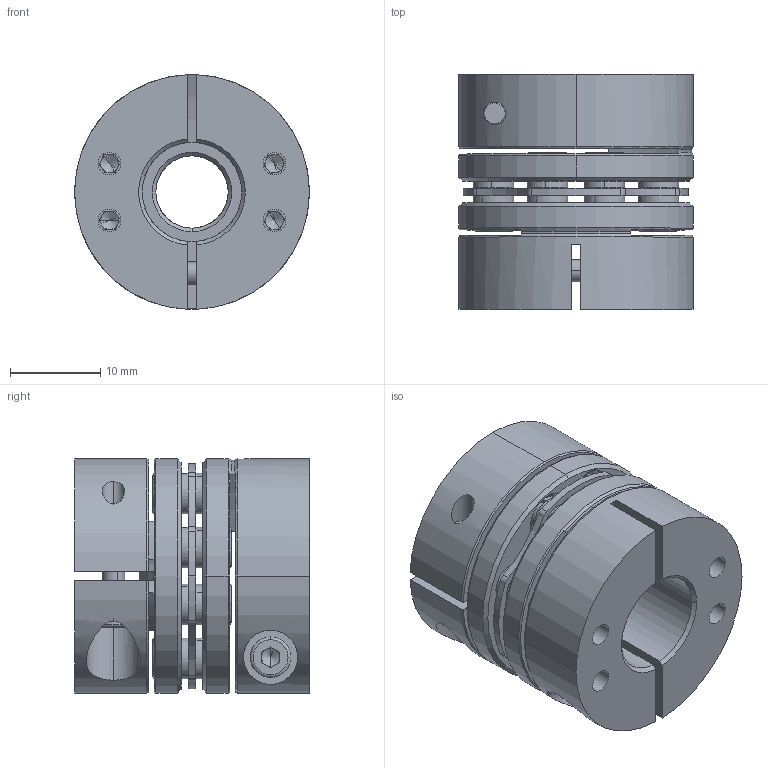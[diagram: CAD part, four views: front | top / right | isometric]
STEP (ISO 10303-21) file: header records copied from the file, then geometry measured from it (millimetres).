
FILE_DESCRIPTION (( 'STEP AP203' ), '1' );
FILE_NAME ('LDG-D26-8-11.STEP', '2021-10-28T03:30:34', ( '' ), ( '' ), 'SwSTEP 2.0', 'SolidWorks 2018', '' );
FILE_SCHEMA (( 'CONFIG_CONTROL_DESIGN' ));
Length unit declared in the file: millimetre
Products named in the file (2): LDG-D26-8-11; 錨璃2^LDG-D26蚾饜芞1
Assembly tree (1 placements, depth 2):
  LDG-D26-8-11
    錨璃2^LDG-D26蚾饜芞1
Bounding box: 26 x 26 x 26 mm (x, y, z)
Volume: 9650.3 mm3; surface area: 8933 mm2
Topology: 1 solids, 21 shells, 765 faces, 1872 edges, 1159 vertices
Faces by surface type: cylinder 301, plane 244, cone 200, torus 20
Entity records: 23057 total; most frequent: DIRECTION 4281, CARTESIAN_POINT 4164, ORIENTED_EDGE 3688, EDGE_CURVE 1844, AXIS2_PLACEMENT_3D 1740, VERTEX_POINT 1159, CIRCLE 971, EDGE_LOOP 909
